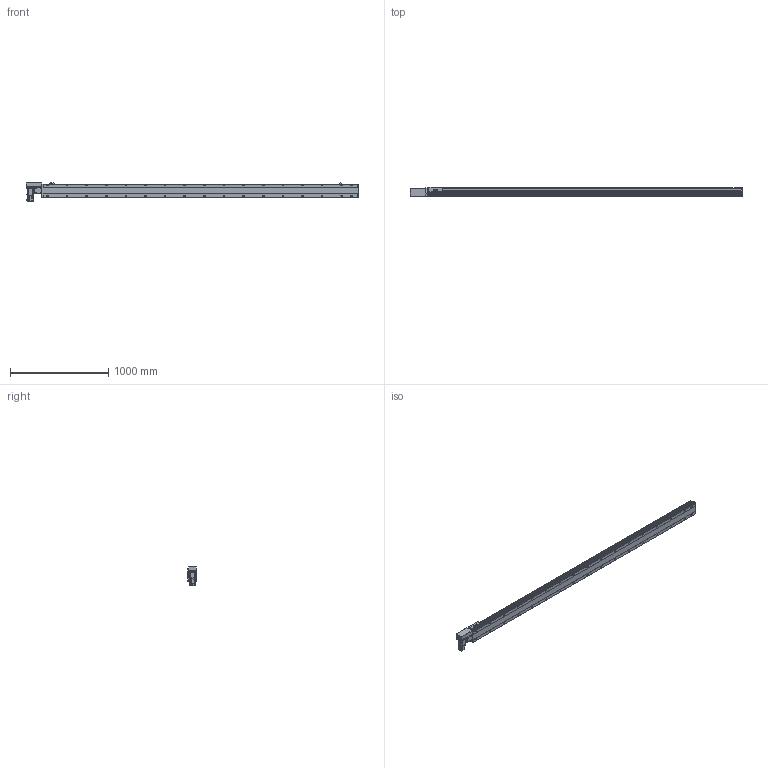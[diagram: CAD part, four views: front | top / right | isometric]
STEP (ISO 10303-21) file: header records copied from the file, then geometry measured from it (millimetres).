
FILE_DESCRIPTION( ( 'STEP AP214' ), '1' );
FILE_NAME( 'x:/temp/worker_6/temp/exporttempdir_5396_79_RXkhb/format_0/PBS140S-P40-S2950-R-T40-C1-N(0).stp', '2022-06-09T00:20:22', ( 'License CC BY-ND 4.0' ), ( 'CADENAS' ), ' ', 'PARTsolutions', ' ' );
FILE_SCHEMA( ( 'AUTOMOTIVE_DESIGN { 1 0 10303 214 1 1 1 1 }' ) );
Length unit declared in the file: millimetre
Products named in the file (7): PBS140S-P40-S2950-R-T40-C1-N(0); _PBS140S-S2950()_body; _PBS140ST-R_motors; _T40-p1; _PBS140S_sliser; _PBS140S_plant; _PBS140S_sensor
Assembly tree (8 placements, depth 2):
  PBS140S-P40-S2950-R-T40-C1-N(0)
    _PBS140S-S2950()_body
    _PBS140ST-R_motors
    _T40-p1
    _PBS140S_sliser
    _PBS140S_plant
    _PBS140S_sensor  x3
Bounding box: 3383 x 93 x 189.7 mm (x, y, z)
Volume: 15918529.1 mm3; surface area: 2672444.2 mm2
Topology: 8 solids, 8 shells, 1243 faces, 3271 edges, 2139 vertices
Faces by surface type: plane 756, cylinder 417, cone 60, sphere 8, torus 2
Full cylindrical faces by diameter (mm): 3.242 x4, 4 x2, 4.134 x4, 4.4 x8, 4.5 x2, 4.8 x4, 4.917 x42, 5.5 x7, 6 x2, 7 x36, 7.5 x8, 8 x12, 8.5 x4, 10.5 x34, 14 x1, 30 x2, 50 x2
Entity records: 46114 total; most frequent: CARTESIAN_POINT 7918, DIRECTION 5978, ORIENTED_EDGE 5602, EDGE_CURVE 2801, AXIS2_PLACEMENT_3D 2129, VERTEX_POINT 1969, LINE 1720, VECTOR 1720
